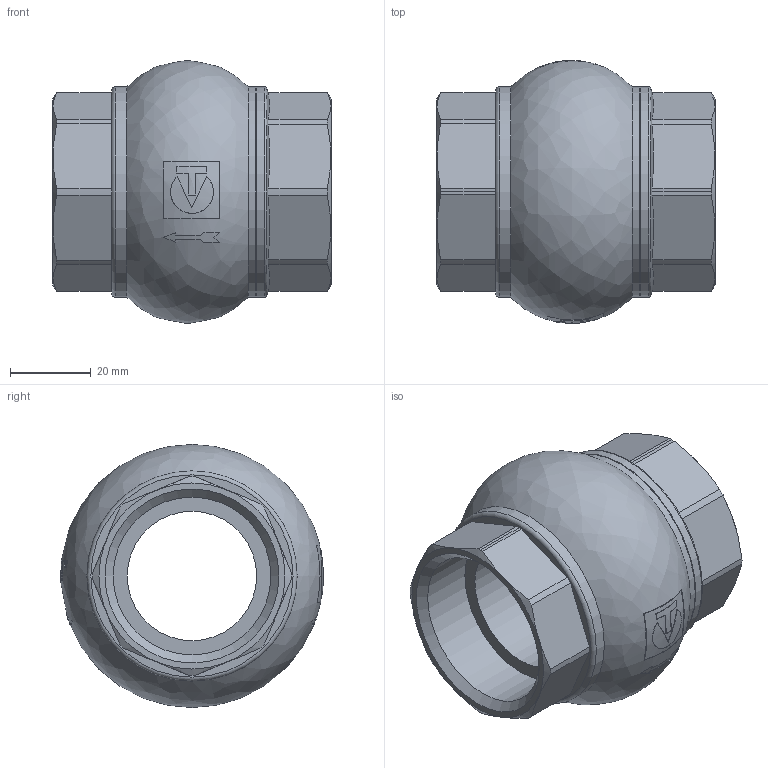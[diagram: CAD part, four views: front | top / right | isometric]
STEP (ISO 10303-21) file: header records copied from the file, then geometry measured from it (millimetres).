
FILE_DESCRIPTION(('TFLEX Exchange Step'),'2;1');
FILE_NAME('Check valve DN32, 1 1_4 VT.151.N.07 Valtec.stp', '2023-09-12T13:27:00+03:00',('denis'),('Unknown organisation'),'TFLEX Exchange 2023.0','T-FLEX CAD','Unknown authorisation');
FILE_SCHEMA( ('AUTOMOTIVE_DESIGN { 1 0 10303 214 1 1 1 1 }') );
Length unit declared in the file: millimetre
Products named in the file (1): Nodes
Bounding box: 68.74 x 65.01 x 65.05 mm (x, y, z)
Volume: 91462.8 mm3; surface area: 22107 mm2
Topology: 1 solids, 1 shells, 154 faces, 415 edges, 279 vertices
Faces by surface type: plane 101, cylinder 29, bspline 17, cone 5, torus 2
Full cylindrical faces by diameter (mm): 32 x1, 39 x2, 51.79 x1, 51.99 x3
Entity records: 6116 total; most frequent: CARTESIAN_POINT 2721, ORIENTED_EDGE 830, DIRECTION 538, EDGE_CURVE 415, VERTEX_POINT 279, AXIS2_PLACEMENT_3D 207, EDGE_LOOP 172, FACE_BOUND 172
